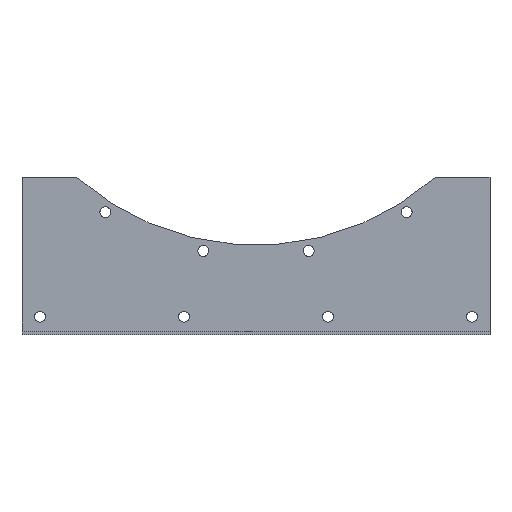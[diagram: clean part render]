
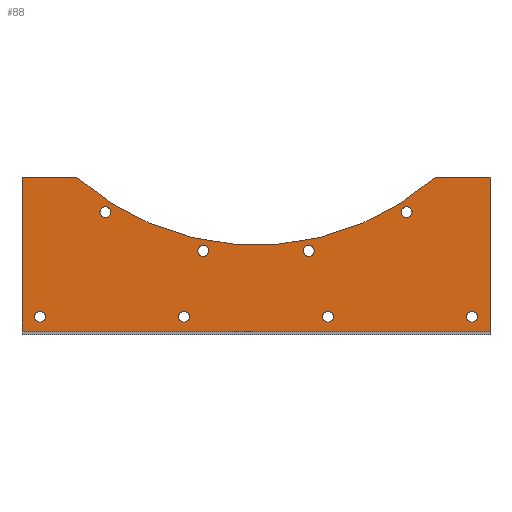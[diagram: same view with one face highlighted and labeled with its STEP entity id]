
A CAD part, top view. The second image highlights one B-rep face of the part: STEP entity #88.
In plain terms, the highlighted planar face has unit normal (0, 0, 1).
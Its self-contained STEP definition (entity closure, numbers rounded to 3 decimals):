
#88=ADVANCED_FACE('',(#184,#185,#186,#187,#188,#189,#190,#191,#192),#193,.T.);
#184=FACE_BOUND('',#285,.T.);
#185=FACE_BOUND('',#286,.T.);
#186=FACE_BOUND('',#287,.T.);
#187=FACE_BOUND('',#288,.T.);
#188=FACE_BOUND('',#289,.T.);
#189=FACE_BOUND('',#290,.T.);
#190=FACE_BOUND('',#291,.T.);
#191=FACE_BOUND('',#292,.T.);
#192=FACE_OUTER_BOUND('',#293,.T.);
#193=PLANE('',#294);
#285=EDGE_LOOP('',(#485,#486));
#286=EDGE_LOOP('',(#487,#488));
#287=EDGE_LOOP('',(#489,#490));
#288=EDGE_LOOP('',(#491,#492));
#289=EDGE_LOOP('',(#493,#494));
#290=EDGE_LOOP('',(#495,#496));
#291=EDGE_LOOP('',(#497,#498));
#292=EDGE_LOOP('',(#499,#500));
#293=EDGE_LOOP('',(#501,#502,#503,#504,#505,#506));
#294=AXIS2_PLACEMENT_3D('',#507,#508,#509);
#485=ORIENTED_EDGE('',*,*,#599,.T.);
#486=ORIENTED_EDGE('',*,*,#604,.T.);
#487=ORIENTED_EDGE('',*,*,#594,.T.);
#488=ORIENTED_EDGE('',*,*,#607,.T.);
#489=ORIENTED_EDGE('',*,*,#589,.T.);
#490=ORIENTED_EDGE('',*,*,#610,.T.);
#491=ORIENTED_EDGE('',*,*,#584,.T.);
#492=ORIENTED_EDGE('',*,*,#613,.T.);
#493=ORIENTED_EDGE('',*,*,#579,.T.);
#494=ORIENTED_EDGE('',*,*,#616,.T.);
#495=ORIENTED_EDGE('',*,*,#574,.T.);
#496=ORIENTED_EDGE('',*,*,#619,.T.);
#497=ORIENTED_EDGE('',*,*,#569,.T.);
#498=ORIENTED_EDGE('',*,*,#622,.T.);
#499=ORIENTED_EDGE('',*,*,#564,.T.);
#500=ORIENTED_EDGE('',*,*,#625,.T.);
#501=ORIENTED_EDGE('',*,*,#627,.T.);
#502=ORIENTED_EDGE('',*,*,#641,.F.);
#503=ORIENTED_EDGE('',*,*,#642,.F.);
#504=ORIENTED_EDGE('',*,*,#643,.F.);
#505=ORIENTED_EDGE('',*,*,#644,.F.);
#506=ORIENTED_EDGE('',*,*,#638,.F.);
#507=CARTESIAN_POINT('',(0.0,3.0,-17.0));
#508=DIRECTION('',(0.0,0.0,1.0));
#509=DIRECTION('',(1.0,0.0,0.0));
#564=EDGE_CURVE('',#664,#661,#665,.T.);
#569=EDGE_CURVE('',#673,#670,#674,.T.);
#574=EDGE_CURVE('',#682,#679,#683,.T.);
#579=EDGE_CURVE('',#691,#688,#692,.T.);
#584=EDGE_CURVE('',#700,#697,#701,.T.);
#589=EDGE_CURVE('',#709,#706,#710,.T.);
#594=EDGE_CURVE('',#718,#715,#719,.T.);
#599=EDGE_CURVE('',#727,#724,#728,.T.);
#604=EDGE_CURVE('',#724,#727,#734,.T.);
#607=EDGE_CURVE('',#715,#718,#737,.T.);
#610=EDGE_CURVE('',#706,#709,#740,.T.);
#613=EDGE_CURVE('',#697,#700,#743,.T.);
#616=EDGE_CURVE('',#688,#691,#746,.T.);
#619=EDGE_CURVE('',#679,#682,#749,.T.);
#622=EDGE_CURVE('',#670,#673,#752,.T.);
#625=EDGE_CURVE('',#661,#664,#755,.T.);
#627=EDGE_CURVE('',#757,#758,#759,.T.);
#638=EDGE_CURVE('',#757,#776,#777,.T.);
#641=EDGE_CURVE('',#780,#758,#781,.T.);
#642=EDGE_CURVE('',#782,#780,#783,.T.);
#643=EDGE_CURVE('',#784,#782,#785,.T.);
#644=EDGE_CURVE('',#776,#784,#786,.T.);
#661=VERTEX_POINT('',#807);
#664=VERTEX_POINT('',#811);
#665=CIRCLE('',#812,6.0);
#670=VERTEX_POINT('',#818);
#673=VERTEX_POINT('',#822);
#674=CIRCLE('',#823,6.0);
#679=VERTEX_POINT('',#829);
#682=VERTEX_POINT('',#833);
#683=CIRCLE('',#834,6.0);
#688=VERTEX_POINT('',#840);
#691=VERTEX_POINT('',#844);
#692=CIRCLE('',#845,6.0);
#697=VERTEX_POINT('',#851);
#700=VERTEX_POINT('',#855);
#701=CIRCLE('',#856,6.0);
#706=VERTEX_POINT('',#862);
#709=VERTEX_POINT('',#866);
#710=CIRCLE('',#867,6.0);
#715=VERTEX_POINT('',#873);
#718=VERTEX_POINT('',#877);
#719=CIRCLE('',#878,6.0);
#724=VERTEX_POINT('',#884);
#727=VERTEX_POINT('',#888);
#728=CIRCLE('',#889,6.0);
#734=CIRCLE('',#896,6.0);
#737=CIRCLE('',#899,6.0);
#740=CIRCLE('',#902,6.0);
#743=CIRCLE('',#905,6.0);
#746=CIRCLE('',#908,6.0);
#749=CIRCLE('',#911,6.0);
#752=CIRCLE('',#914,6.0);
#755=CIRCLE('',#917,6.0);
#757=VERTEX_POINT('',#919);
#758=VERTEX_POINT('',#920);
#759=CIRCLE('',#921,300.5);
#776=VERTEX_POINT('',#945);
#777=LINE('',#946,#947);
#780=VERTEX_POINT('',#951);
#781=LINE('',#952,#953);
#782=VERTEX_POINT('',#954);
#783=LINE('',#955,#956);
#784=VERTEX_POINT('',#957);
#785=LINE('',#958,#959);
#786=LINE('',#960,#961);
#807=CARTESIAN_POINT('',(-234.0,-67.5,-17.0));
#811=CARTESIAN_POINT('',(-246.0,-67.5,-17.0));
#812=AXIS2_PLACEMENT_3D('',#991,#992,#993);
#818=CARTESIAN_POINT('',(246.0,-67.5,-17.0));
#822=CARTESIAN_POINT('',(234.0,-67.5,-17.0));
#823=AXIS2_PLACEMENT_3D('',#999,#1000,#1001);
#829=CARTESIAN_POINT('',(-74.0,-67.5,-17.0));
#833=CARTESIAN_POINT('',(-86.0,-67.5,-17.0));
#834=AXIS2_PLACEMENT_3D('',#1007,#1008,#1009);
#840=CARTESIAN_POINT('',(86.0,-67.5,-17.0));
#844=CARTESIAN_POINT('',(74.0,-67.5,-17.0));
#845=AXIS2_PLACEMENT_3D('',#1015,#1016,#1017);
#851=CARTESIAN_POINT('',(64.45,6.66,-17.0));
#855=CARTESIAN_POINT('',(52.663,4.411,-17.0));
#856=AXIS2_PLACEMENT_3D('',#1023,#1024,#1025);
#862=CARTESIAN_POINT('',(-52.663,4.411,-17.0));
#866=CARTESIAN_POINT('',(-64.45,6.66,-17.0));
#867=AXIS2_PLACEMENT_3D('',#1031,#1032,#1033);
#873=CARTESIAN_POINT('',(-162.38,45.433,-17.0));
#877=CARTESIAN_POINT('',(-172.512,51.862,-17.0));
#878=AXIS2_PLACEMENT_3D('',#1039,#1040,#1041);
#884=CARTESIAN_POINT('',(172.512,51.862,-17.0));
#888=CARTESIAN_POINT('',(162.38,45.433,-17.0));
#889=AXIS2_PLACEMENT_3D('',#1047,#1048,#1049);
#896=AXIS2_PLACEMENT_3D('',#1057,#1058,#1059);
#899=AXIS2_PLACEMENT_3D('',#1063,#1064,#1065);
#902=AXIS2_PLACEMENT_3D('',#1069,#1070,#1071);
#905=AXIS2_PLACEMENT_3D('',#1075,#1076,#1077);
#908=AXIS2_PLACEMENT_3D('',#1081,#1082,#1083);
#911=AXIS2_PLACEMENT_3D('',#1087,#1088,#1089);
#914=AXIS2_PLACEMENT_3D('',#1093,#1094,#1095);
#917=AXIS2_PLACEMENT_3D('',#1099,#1100,#1101);
#919=CARTESIAN_POINT('',(199.186,87.5,-17.0));
#920=CARTESIAN_POINT('',(-199.186,87.5,-17.0));
#921=AXIS2_PLACEMENT_3D('',#1102,#1103,#1104);
#945=CARTESIAN_POINT('',(260.0,87.5,-17.0));
#946=CARTESIAN_POINT('',(0.0,87.5,-17.0));
#947=VECTOR('',#1115,1.0);
#951=CARTESIAN_POINT('',(-260.0,87.5,-17.0));
#952=CARTESIAN_POINT('',(0.0,87.5,-17.0));
#953=VECTOR('',#1117,1.0);
#954=CARTESIAN_POINT('',(-260.0,-84.5,-17.0));
#955=CARTESIAN_POINT('',(-260.0,1.5,-17.0));
#956=VECTOR('',#1118,1.0);
#957=CARTESIAN_POINT('',(260.0,-84.5,-17.0));
#958=CARTESIAN_POINT('',(0.0,-84.5,-17.0));
#959=VECTOR('',#1119,1.0);
#960=CARTESIAN_POINT('',(260.0,1.5,-17.0));
#961=VECTOR('',#1120,1.0);
#991=CARTESIAN_POINT('',(-240.0,-67.5,-17.0));
#992=DIRECTION('',(0.0,0.0,-1.0));
#993=DIRECTION('',(1.0,0.0,0.0));
#999=CARTESIAN_POINT('',(240.0,-67.5,-17.0));
#1000=DIRECTION('',(0.0,0.0,-1.0));
#1001=DIRECTION('',(1.0,0.0,0.0));
#1007=CARTESIAN_POINT('',(-80.0,-67.5,-17.0));
#1008=DIRECTION('',(0.0,0.0,-1.0));
#1009=DIRECTION('',(1.0,0.0,0.0));
#1015=CARTESIAN_POINT('',(80.0,-67.5,-17.0));
#1016=DIRECTION('',(0.0,0.0,-1.0));
#1017=DIRECTION('',(1.0,0.0,0.0));
#1023=CARTESIAN_POINT('',(58.557,5.535,-17.0));
#1024=DIRECTION('',(0.0,0.0,-1.0));
#1025=DIRECTION('',(0.982,0.187,0.0));
#1031=CARTESIAN_POINT('',(-58.557,5.535,-17.0));
#1032=DIRECTION('',(0.0,-0.0,-1.0));
#1033=DIRECTION('',(0.982,-0.187,0.0));
#1039=CARTESIAN_POINT('',(-167.446,48.648,-17.0));
#1040=DIRECTION('',(0.0,-0.0,-1.0));
#1041=DIRECTION('',(0.844,-0.536,0.0));
#1047=CARTESIAN_POINT('',(167.446,48.648,-17.0));
#1048=DIRECTION('',(0.0,0.0,-1.0));
#1049=DIRECTION('',(0.844,0.536,0.0));
#1057=CARTESIAN_POINT('',(167.446,48.648,-17.0));
#1058=DIRECTION('',(0.0,0.0,-1.0));
#1059=DIRECTION('',(0.844,0.536,0.0));
#1063=CARTESIAN_POINT('',(-167.446,48.648,-17.0));
#1064=DIRECTION('',(0.0,-0.0,-1.0));
#1065=DIRECTION('',(0.844,-0.536,0.0));
#1069=CARTESIAN_POINT('',(-58.557,5.535,-17.0));
#1070=DIRECTION('',(0.0,-0.0,-1.0));
#1071=DIRECTION('',(0.982,-0.187,0.0));
#1075=CARTESIAN_POINT('',(58.557,5.535,-17.0));
#1076=DIRECTION('',(0.0,0.0,-1.0));
#1077=DIRECTION('',(0.982,0.187,0.0));
#1081=CARTESIAN_POINT('',(80.0,-67.5,-17.0));
#1082=DIRECTION('',(0.0,0.0,-1.0));
#1083=DIRECTION('',(1.0,0.0,0.0));
#1087=CARTESIAN_POINT('',(-80.0,-67.5,-17.0));
#1088=DIRECTION('',(0.0,0.0,-1.0));
#1089=DIRECTION('',(1.0,0.0,0.0));
#1093=CARTESIAN_POINT('',(240.0,-67.5,-17.0));
#1094=DIRECTION('',(0.0,0.0,-1.0));
#1095=DIRECTION('',(1.0,0.0,0.0));
#1099=CARTESIAN_POINT('',(-240.0,-67.5,-17.0));
#1100=DIRECTION('',(0.0,0.0,-1.0));
#1101=DIRECTION('',(1.0,0.0,0.0));
#1102=CARTESIAN_POINT('',(0.0,312.5,-17.0));
#1103=DIRECTION('',(0.0,0.0,-1.0));
#1104=DIRECTION('',(1.0,0.0,0.0));
#1115=DIRECTION('',(1.0,0.0,-0.0));
#1117=DIRECTION('',(1.0,0.0,-0.0));
#1118=DIRECTION('',(0.0,1.0,0.0));
#1119=DIRECTION('',(-1.0,0.0,0.0));
#1120=DIRECTION('',(0.0,-1.0,0.0));
